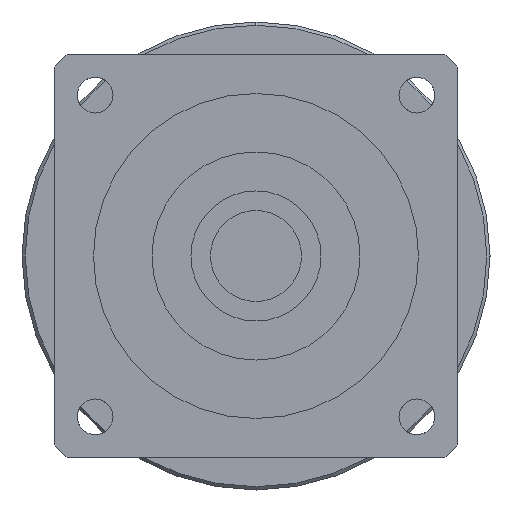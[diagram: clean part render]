
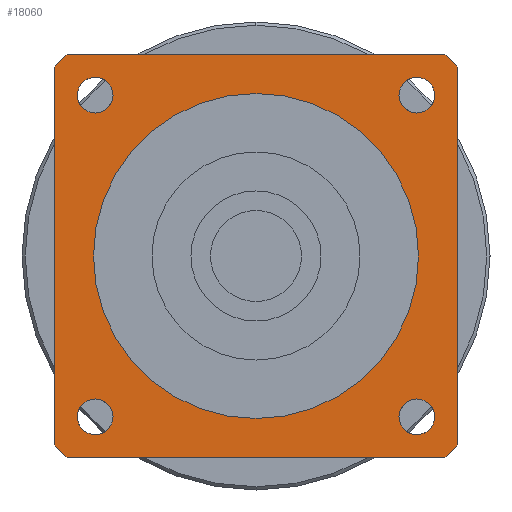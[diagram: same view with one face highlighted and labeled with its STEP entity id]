
A CAD part, left-side view. The second image highlights one B-rep face of the part: STEP entity #18060.
In plain terms, the highlighted planar face has unit normal (-1, 0, 0) as drawn and (0, 0, -1) by its records, which use the part's own axes.
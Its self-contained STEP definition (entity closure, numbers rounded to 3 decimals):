
#12210=CARTESIAN_POINT('',(-31.,29.073,-96.5));
#12220=VERTEX_POINT('',#12210);
#12400=CARTESIAN_POINT('',(-31.,-29.073,-96.5));
#12410=VERTEX_POINT('',#12400);
#12440=CARTESIAN_POINT('',(-31.,31.,-96.5));
#12450=DIRECTION('',(0.,-1.,0.));
#12460=VECTOR('',#12450,1000.);
#12470=LINE('',#12440,#12460);
#12480=EDGE_CURVE('',#12220,#12410,#12470,.T.);
#12640=CARTESIAN_POINT('',(29.073,31.,-96.5));
#12650=VERTEX_POINT('',#12640);
#12680=CARTESIAN_POINT('',(0.,0.,
-96.5));
#12690=DIRECTION('',(0.,0.,1.));
#12700=DIRECTION('',(0.,-1.,0.));
#12710=AXIS2_PLACEMENT_3D('',#12680,#12690,#12700);
#12720=CIRCLE('',#12710,42.5);
#12730=CARTESIAN_POINT('',(31.,29.073,-96.5));
#12740=VERTEX_POINT('',#12730);
#12750=EDGE_CURVE('',#12740,#12650,#12720,.T.);
#15260=CARTESIAN_POINT('',(-29.073,-31.,-96.5));
#15270=VERTEX_POINT('',#15260);
#15300=CARTESIAN_POINT('',(0.,0.,
-96.5));
#15310=DIRECTION('',(0.,0.,1.));
#15320=DIRECTION('',(0.,-1.,0.));
#15330=AXIS2_PLACEMENT_3D('',#15300,#15310,#15320);
#15340=CIRCLE('',#15330,42.5);
#15350=EDGE_CURVE('',#12410,#15270,#15340,.T.);
#15840=CARTESIAN_POINT('',(29.073,-31.,-96.5));
#15850=VERTEX_POINT('',#15840);
#15930=CARTESIAN_POINT('',(31.,-29.073,-96.5));
#15940=VERTEX_POINT('',#15930);
#15970=CARTESIAN_POINT('',(0.,0.,
-96.5));
#15980=DIRECTION('',(0.,0.,1.));
#15990=DIRECTION('',(0.,-1.,0.));
#16000=AXIS2_PLACEMENT_3D('',#15970,#15980,#15990);
#16010=CIRCLE('',#16000,42.5);
#16020=EDGE_CURVE('',#15850,#15940,#16010,.T.);
#16280=CARTESIAN_POINT('',(-29.073,31.,-96.5));
#16290=VERTEX_POINT('',#16280);
#16320=CARTESIAN_POINT('',(31.,31.,-96.5));
#16330=DIRECTION('',(-1.,0.,0.));
#16340=VECTOR('',#16330,1000.);
#16350=LINE('',#16320,#16340);
#16360=EDGE_CURVE('',#12650,#16290,#16350,.T.);
#16760=CARTESIAN_POINT('',(0.,0.,
-96.5));
#16770=DIRECTION('',(0.,0.,1.));
#16780=DIRECTION('',(0.,-1.,0.));
#16790=AXIS2_PLACEMENT_3D('',#16760,#16770,#16780);
#16800=CIRCLE('',#16790,42.5);
#16810=EDGE_CURVE('',#16290,#12220,#16800,.T.);
#16860=CARTESIAN_POINT('',(-31.,31.,-96.5));
#16870=DIRECTION('',(0.,0.,1.));
#16880=DIRECTION('',(-1.,0.,0.));
#16890=AXIS2_PLACEMENT_3D('',#16860,#16870,#16880);
#16900=PLANE('',#16890);
#16910=CARTESIAN_POINT('',(24.749,-24.749,-96.5));
#16920=DIRECTION('',(0.,0.,-1.));
#16930=DIRECTION('',(1.,0.,0.));
#16940=AXIS2_PLACEMENT_3D('',#16910,#16920,#16930);
#16950=CIRCLE('',#16940,2.75);
#16960=CARTESIAN_POINT('',(27.499,-24.749,-96.5));
#16970=VERTEX_POINT('',#16960);
#16980=CARTESIAN_POINT('',(24.749,-27.499,-96.5));
#16990=VERTEX_POINT('',#16980);
#17000=EDGE_CURVE('',#16970,#16990,#16950,.T.);
#17010=ORIENTED_EDGE('',*,*,#17000,.F.);
#17020=CARTESIAN_POINT('',(24.749,-21.999,-96.5));
#17030=VERTEX_POINT('',#17020);
#17040=EDGE_CURVE('',#16990,#17030,#16950,.T.);
#17050=ORIENTED_EDGE('',*,*,#17040,.F.);
#17060=EDGE_CURVE('',#17030,#16970,#16950,.T.);
#17070=ORIENTED_EDGE('',*,*,#17060,.F.);
#17080=EDGE_LOOP('',(#17070,#17050,#17010));
#17090=FACE_BOUND('',#17080,.T.);
#17100=CARTESIAN_POINT('',(24.749,24.749,-96.5));
#17110=DIRECTION('',(0.,0.,-1.));
#17120=DIRECTION('',(0.,1.,0.));
#17130=AXIS2_PLACEMENT_3D('',#17100,#17110,#17120);
#17140=CIRCLE('',#17130,2.75);
#17150=CARTESIAN_POINT('',(24.749,27.499,-96.5));
#17160=VERTEX_POINT('',#17150);
#17170=CARTESIAN_POINT('',(27.499,24.749,-96.5));
#17180=VERTEX_POINT('',#17170);
#17190=EDGE_CURVE('',#17160,#17180,#17140,.T.);
#17200=ORIENTED_EDGE('',*,*,#17190,.F.);
#17210=CARTESIAN_POINT('',(21.999,24.749,-96.5));
#17220=VERTEX_POINT('',#17210);
#17230=EDGE_CURVE('',#17180,#17220,#17140,.T.);
#17240=ORIENTED_EDGE('',*,*,#17230,.F.);
#17250=EDGE_CURVE('',#17220,#17160,#17140,.T.);
#17260=ORIENTED_EDGE('',*,*,#17250,.F.);
#17270=EDGE_LOOP('',(#17260,#17240,#17200));
#17280=FACE_BOUND('',#17270,.T.);
#17290=CARTESIAN_POINT('',(-24.749,24.749,-96.5));
#17300=DIRECTION('',(0.,0.,-1.));
#17310=DIRECTION('',(-1.,0.,0.));
#17320=AXIS2_PLACEMENT_3D('',#17290,#17300,#17310);
#17330=CIRCLE('',#17320,2.75);
#17340=CARTESIAN_POINT('',(-27.499,24.749,-96.5));
#17350=VERTEX_POINT('',#17340);
#17360=CARTESIAN_POINT('',(-24.749,27.499,-96.5));
#17370=VERTEX_POINT('',#17360);
#17380=EDGE_CURVE('',#17350,#17370,#17330,.T.);
#17390=ORIENTED_EDGE('',*,*,#17380,.F.);
#17400=CARTESIAN_POINT('',(-24.749,21.999,-96.5));
#17410=VERTEX_POINT('',#17400);
#17420=EDGE_CURVE('',#17370,#17410,#17330,.T.);
#17430=ORIENTED_EDGE('',*,*,#17420,.F.);
#17440=EDGE_CURVE('',#17410,#17350,#17330,.T.);
#17450=ORIENTED_EDGE('',*,*,#17440,.F.);
#17460=EDGE_LOOP('',(#17450,#17430,#17390));
#17470=FACE_BOUND('',#17460,.T.);
#17480=CARTESIAN_POINT('',(-24.749,-24.749,-96.5));
#17490=DIRECTION('',(0.,0.,-1.));
#17500=DIRECTION('',(0.,-1.,0.));
#17510=AXIS2_PLACEMENT_3D('',#17480,#17490,#17500);
#17520=CIRCLE('',#17510,2.75);
#17530=CARTESIAN_POINT('',(-24.749,-27.499,-96.5));
#17540=VERTEX_POINT('',#17530);
#17550=CARTESIAN_POINT('',(-27.499,-24.749,-96.5));
#17560=VERTEX_POINT('',#17550);
#17570=EDGE_CURVE('',#17540,#17560,#17520,.T.);
#17580=ORIENTED_EDGE('',*,*,#17570,.F.);
#17590=CARTESIAN_POINT('',(-21.999,-24.749,-96.5));
#17600=VERTEX_POINT('',#17590);
#17610=EDGE_CURVE('',#17560,#17600,#17520,.T.);
#17620=ORIENTED_EDGE('',*,*,#17610,.F.);
#17630=EDGE_CURVE('',#17600,#17540,#17520,.T.);
#17640=ORIENTED_EDGE('',*,*,#17630,.F.);
#17650=EDGE_LOOP('',(#17640,#17620,#17580));
#17660=FACE_BOUND('',#17650,.T.);
#17670=ORIENTED_EDGE('',*,*,#15350,.F.);
#17680=CARTESIAN_POINT('',(-31.,-31.,-96.5));
#17690=DIRECTION('',(1.,0.,0.));
#17700=VECTOR('',#17690,1000.);
#17710=LINE('',#17680,#17700);
#17720=EDGE_CURVE('',#15270,#15850,#17710,.T.);
#17730=ORIENTED_EDGE('',*,*,#17720,.F.);
#17740=ORIENTED_EDGE('',*,*,#16020,.F.);
#17750=CARTESIAN_POINT('',(31.,-31.,-96.5));
#17760=DIRECTION('',(0.,1.,0.));
#17770=VECTOR('',#17760,1000.);
#17780=LINE('',#17750,#17770);
#17790=EDGE_CURVE('',#15940,#12740,#17780,.T.);
#17800=ORIENTED_EDGE('',*,*,#17790,.F.);
#17810=ORIENTED_EDGE('',*,*,#12750,.F.);
#17820=ORIENTED_EDGE('',*,*,#16360,.F.);
#17830=ORIENTED_EDGE('',*,*,#16810,.F.);
#17840=ORIENTED_EDGE('',*,*,#12480,.F.);
#17850=EDGE_LOOP('',(#17840,#17830,#17820,#17810,#17800,#17740,#17730,
#17670));
#17860=FACE_OUTER_BOUND('',#17850,.T.);
#17870=CARTESIAN_POINT('',(0.,0.,
-96.5));
#17880=DIRECTION('',(0.,0.,1.));
#17890=DIRECTION('',(0.,-1.,0.));
#17900=AXIS2_PLACEMENT_3D('',#17870,#17880,#17890);
#17910=CIRCLE('',#17900,25.);
#17920=CARTESIAN_POINT('',(25.,0.,-96.5));
#17930=VERTEX_POINT('',#17920);
#17940=CARTESIAN_POINT('',(-25.,0.,-96.5));
#17950=VERTEX_POINT('',#17940);
#17960=EDGE_CURVE('',#17930,#17950,#17910,.T.);
#17970=ORIENTED_EDGE('',*,*,#17960,.T.);
#17980=CARTESIAN_POINT('',(0.,-25.,-96.5));
#17990=VERTEX_POINT('',#17980);
#18000=EDGE_CURVE('',#17990,#17930,#17910,.T.);
#18010=ORIENTED_EDGE('',*,*,#18000,.T.);
#18020=EDGE_CURVE('',#17950,#17990,#17910,.T.);
#18030=ORIENTED_EDGE('',*,*,#18020,.T.);
#18040=EDGE_LOOP('',(#18030,#18010,#17970));
#18050=FACE_BOUND('',#18040,.T.);
#18060=ADVANCED_FACE('',(#17090,#17280,#17470,#17660,#17860,#18050),
#16900,.F.);
